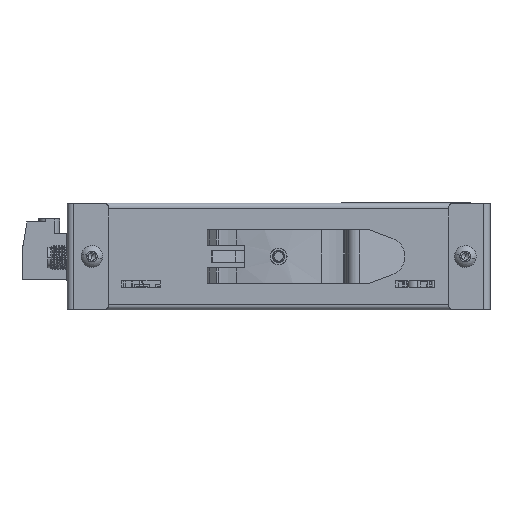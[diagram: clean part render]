
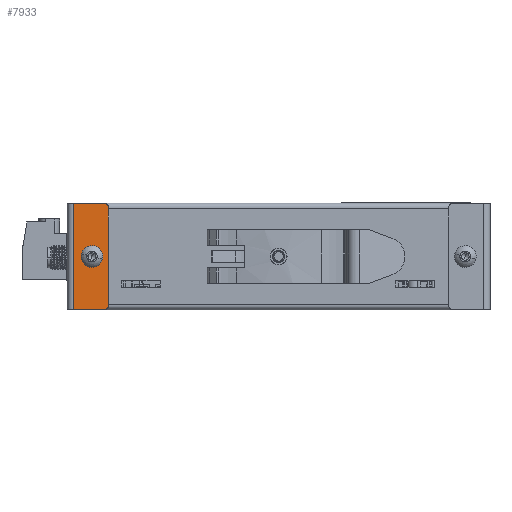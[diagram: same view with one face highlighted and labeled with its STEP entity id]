
A CAD part, left-side view. The second image highlights one B-rep face of the part: STEP entity #7933.
In plain terms, the highlighted planar face has unit normal (-1, 0, 0).
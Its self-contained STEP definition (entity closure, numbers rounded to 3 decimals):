
#177 = CARTESIAN_POINT ( 'NONE',  ( -47.5, 53.9, 14. ) ) ;
#3293 = DIRECTION ( 'NONE',  ( 0., -1., 0. ) ) ;
#3848 = DIRECTION ( 'NONE',  ( -1., 0., 0. ) ) ;
#4690 = CARTESIAN_POINT ( 'NONE',  ( -47.5, 53.9, -14. ) ) ;
#6966 = LINE ( 'NONE', #84288, #113997 ) ;
#7933 = ADVANCED_FACE ( 'NONE', ( #41724, #14959 ), #63034, .F. ) ;
#10931 = EDGE_CURVE ( 'NONE', #16830, #115896, #45217, .T. ) ;
#11238 = VERTEX_POINT ( 'NONE', #97472 ) ;
#12173 = CARTESIAN_POINT ( 'NONE',  ( -47.5, 44.7, -13. ) ) ;
#12638 = CARTESIAN_POINT ( 'NONE',  ( -47.5, 44.7, 13. ) ) ;
#14674 = VERTEX_POINT ( 'NONE', #70080 ) ;
#14909 = VERTEX_POINT ( 'NONE', #12173 ) ;
#14959 = FACE_OUTER_BOUND ( 'NONE', #53680, .T. ) ;
#16830 = VERTEX_POINT ( 'NONE', #12638 ) ;
#17667 = VERTEX_POINT ( 'NONE', #177 ) ;
#18386 = VERTEX_POINT ( 'NONE', #47926 ) ;
#21292 = VECTOR ( 'NONE', #91304, 1000. ) ;
#22746 = EDGE_CURVE ( 'NONE', #14674, #11238, #51689, .T. ) ;
#25678 = CARTESIAN_POINT ( 'NONE',  ( -47.5, 44.7, 14. ) ) ;
#27737 = EDGE_LOOP ( 'NONE', ( #48486, #42663 ) ) ;
#31921 = EDGE_CURVE ( 'NONE', #16830, #14909, #74862, .T. ) ;
#33426 = AXIS2_PLACEMENT_3D ( 'NONE', #128862, #58491, #118769 ) ;
#34368 = LINE ( 'NONE', #35715, #114580 ) ;
#35715 = CARTESIAN_POINT ( 'NONE',  ( -47.5, 54.7, -14. ) ) ;
#41724 = FACE_BOUND ( 'NONE', #27737, .T. ) ;
#42663 = ORIENTED_EDGE ( 'NONE', *, *, #62388, .F. ) ;
#43012 = CARTESIAN_POINT ( 'NONE',  ( -47.5, 45.7, -13. ) ) ;
#43370 = DIRECTION ( 'NONE',  ( 0., 0., -1. ) ) ;
#43377 = AXIS2_PLACEMENT_3D ( 'NONE', #43012, #113277, #53050 ) ;
#45217 = CIRCLE ( 'NONE', #94068, 1. ) ;
#47189 = AXIS2_PLACEMENT_3D ( 'NONE', #73184, #47531, #123207 ) ;
#47531 = DIRECTION ( 'NONE',  ( 1., 0., 0. ) ) ;
#47926 = CARTESIAN_POINT ( 'NONE',  ( -47.5, 45.7, -14. ) ) ;
#48486 = ORIENTED_EDGE ( 'NONE', *, *, #22746, .F. ) ;
#50039 = VERTEX_POINT ( 'NONE', #4690 ) ;
#51689 = CIRCLE ( 'NONE', #33426, 1.75 ) ;
#51738 = ORIENTED_EDGE ( 'NONE', *, *, #31921, .F. ) ;
#53050 = DIRECTION ( 'NONE',  ( 0., 0., -1. ) ) ;
#53585 = DIRECTION ( 'NONE',  ( 0., 0., -1. ) ) ;
#53680 = EDGE_LOOP ( 'NONE', ( #81543, #108738, #51738, #117010, #106493, #128367 ) ) ;
#58491 = DIRECTION ( 'NONE',  ( -1., 0., 0. ) ) ;
#61370 = LINE ( 'NONE', #103621, #114815 ) ;
#62388 = EDGE_CURVE ( 'NONE', #11238, #14674, #73168, .T. ) ;
#63034 = PLANE ( 'NONE',  #47189 ) ;
#63802 = CARTESIAN_POINT ( 'NONE',  ( -47.5, 45.7, 13. ) ) ;
#64220 = CARTESIAN_POINT ( 'NONE',  ( -47.5, 49., 0. ) ) ;
#68653 = AXIS2_PLACEMENT_3D ( 'NONE', #64220, #3848, #74348 ) ;
#70080 = CARTESIAN_POINT ( 'NONE',  ( -47.5, 49., 1.75 ) ) ;
#71588 = EDGE_CURVE ( 'NONE', #17667, #115896, #6966, .T. ) ;
#73168 = CIRCLE ( 'NONE', #68653, 1.75 ) ;
#73184 = CARTESIAN_POINT ( 'NONE',  ( -47.5, 54.7, 14. ) ) ;
#74348 = DIRECTION ( 'NONE',  ( 0., 0., 1. ) ) ;
#74862 = LINE ( 'NONE', #25678, #21292 ) ;
#75539 = EDGE_CURVE ( 'NONE', #50039, #18386, #34368, .T. ) ;
#81543 = ORIENTED_EDGE ( 'NONE', *, *, #75539, .T. ) ;
#84288 = CARTESIAN_POINT ( 'NONE',  ( -47.5, 54.7, 14. ) ) ;
#91304 = DIRECTION ( 'NONE',  ( 0., 0., -1. ) ) ;
#94068 = AXIS2_PLACEMENT_3D ( 'NONE', #63802, #123956, #53585 ) ;
#96034 = DIRECTION ( 'NONE',  ( 0., -1., 0. ) ) ;
#97472 = CARTESIAN_POINT ( 'NONE',  ( -47.5, 49., -1.75 ) ) ;
#99680 = CIRCLE ( 'NONE', #43377, 1. ) ;
#103621 = CARTESIAN_POINT ( 'NONE',  ( -47.5, 53.9, 14. ) ) ;
#106493 = ORIENTED_EDGE ( 'NONE', *, *, #71588, .F. ) ;
#108738 = ORIENTED_EDGE ( 'NONE', *, *, #121492, .T. ) ;
#113277 = DIRECTION ( 'NONE',  ( -1., 0., 0. ) ) ;
#113997 = VECTOR ( 'NONE', #3293, 1000. ) ;
#114580 = VECTOR ( 'NONE', #96034, 1000. ) ;
#114815 = VECTOR ( 'NONE', #43370, 1000. ) ;
#115896 = VERTEX_POINT ( 'NONE', #121365 ) ;
#117010 = ORIENTED_EDGE ( 'NONE', *, *, #10931, .T. ) ;
#118453 = EDGE_CURVE ( 'NONE', #17667, #50039, #61370, .T. ) ;
#118769 = DIRECTION ( 'NONE',  ( 0., 0., 1. ) ) ;
#121365 = CARTESIAN_POINT ( 'NONE',  ( -47.5, 45.7, 14. ) ) ;
#121492 = EDGE_CURVE ( 'NONE', #18386, #14909, #99680, .T. ) ;
#123207 = DIRECTION ( 'NONE',  ( 0., 0., -1. ) ) ;
#123956 = DIRECTION ( 'NONE',  ( -1., 0., 0. ) ) ;
#128367 = ORIENTED_EDGE ( 'NONE', *, *, #118453, .T. ) ;
#128862 = CARTESIAN_POINT ( 'NONE',  ( -47.5, 49., 0. ) ) ;
